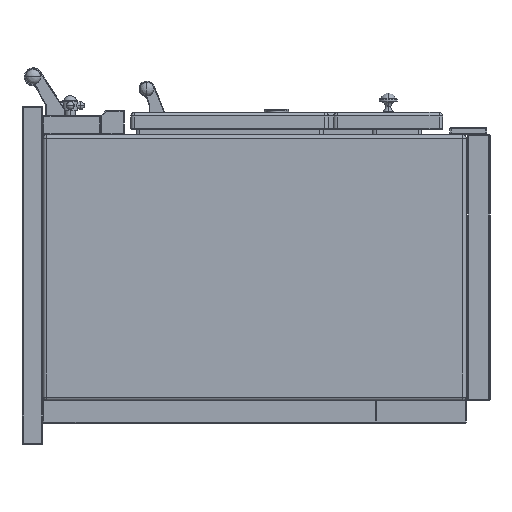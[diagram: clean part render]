
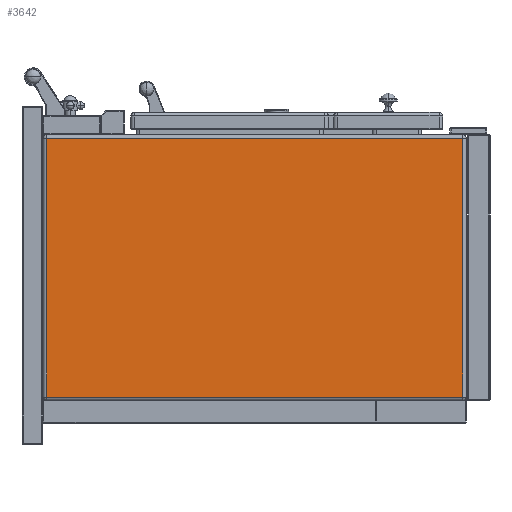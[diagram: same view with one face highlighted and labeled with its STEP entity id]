
A CAD part, left-side view. The second image highlights one B-rep face of the part: STEP entity #3642.
In plain terms, the highlighted planar face has unit normal (-1, 0, 0).
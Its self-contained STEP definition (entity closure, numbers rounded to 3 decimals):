
#914=DIRECTION('',(0.,1.,0.));
#915=VECTOR('',#914,801.);
#916=CARTESIAN_POINT('',(-550.,52.5,249.));
#917=LINE('',#916,#915);
#918=DIRECTION('',(0.,0.,1.));
#919=VECTOR('',#918,498.);
#920=CARTESIAN_POINT('',(-550.,52.5,-249.));
#921=LINE('',#920,#919);
#922=DIRECTION('',(0.,-1.,0.));
#923=VECTOR('',#922,801.);
#924=CARTESIAN_POINT('',(-550.,853.5,-249.));
#925=LINE('',#924,#923);
#926=DIRECTION('',(0.,0.,-1.));
#927=VECTOR('',#926,498.);
#928=CARTESIAN_POINT('',(-550.,853.5,249.));
#929=LINE('',#928,#927);
#2029=CARTESIAN_POINT('',(-550.,52.5,249.));
#2030=CARTESIAN_POINT('',(-550.,853.5,249.));
#2031=VERTEX_POINT('',#2029);
#2032=VERTEX_POINT('',#2030);
#2033=CARTESIAN_POINT('',(-550.,52.5,-249.));
#2034=VERTEX_POINT('',#2033);
#2057=CARTESIAN_POINT('',(-550.,853.5,-249.));
#2058=VERTEX_POINT('',#2057);
#3628=CARTESIAN_POINT('',(-550.,0.,0.));
#3629=DIRECTION('',(1.,0.,0.));
#3630=DIRECTION('',(0.,0.,-1.));
#3631=AXIS2_PLACEMENT_3D('',#3628,#3629,#3630);
#3632=PLANE('',#3631);
#3634=ORIENTED_EDGE('',*,*,#3633,.F.);
#3636=ORIENTED_EDGE('',*,*,#3635,.F.);
#3637=ORIENTED_EDGE('',*,*,#3619,.F.);
#3639=ORIENTED_EDGE('',*,*,#3638,.F.);
#3640=EDGE_LOOP('',(#3634,#3636,#3637,#3639));
#3641=FACE_OUTER_BOUND('',#3640,.F.);
#3619=EDGE_CURVE('',#2058,#2034,#925,.T.);
#3633=EDGE_CURVE('',#2031,#2032,#917,.T.);
#3635=EDGE_CURVE('',#2034,#2031,#921,.T.);
#3638=EDGE_CURVE('',#2032,#2058,#929,.T.);
#3642=ADVANCED_FACE('',(#3641),#3632,.F.);
